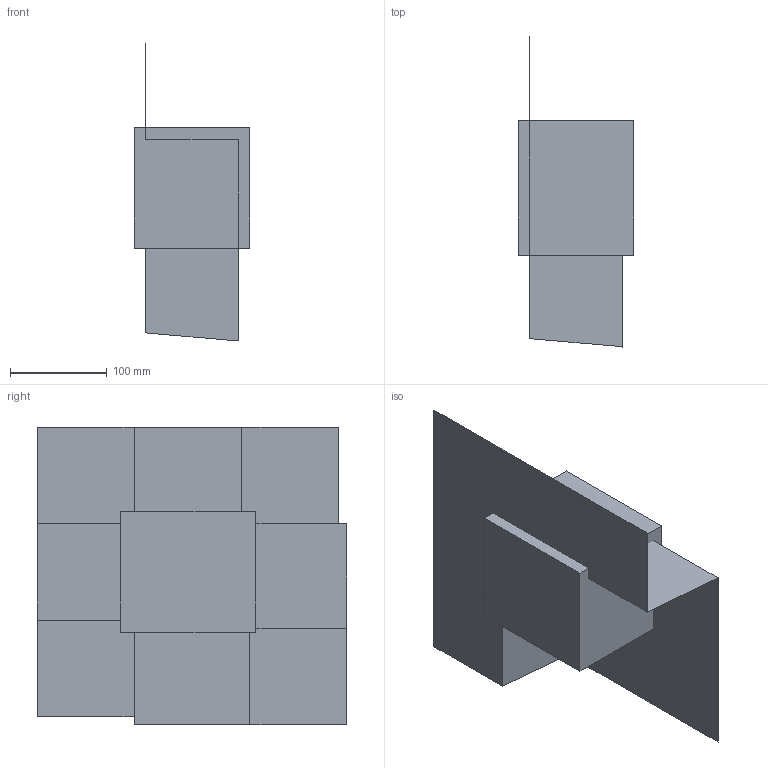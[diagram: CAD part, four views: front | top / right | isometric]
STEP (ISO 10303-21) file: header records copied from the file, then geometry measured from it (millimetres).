
FILE_DESCRIPTION(('CATIA V5 STEP Exchange'),'2;1');
FILE_NAME('C:\_Andres\UNIVERSIDAD\IQS\ASIGNATURAS\DAO\EXF\EXF-15161c\1original\Wand_Domenech_Ej02-moldes_v29.stp','2016-03-04T15:45:47+00:00',('none'),('none'),'CATIA Version 5 Release 20 SP 1 (IN-10)','CATIA V5 STEP AP203','none');
FILE_SCHEMA(('CONFIG_CONTROL_DESIGN'));
Length unit declared in the file: millimetre
Products named in the file (1): Wand_Domenech_Ej02-moldes_v29
Bounding box: 119 x 319.53 x 307.53 mm (x, y, z)
Volume: 4334003.6 mm3; surface area: 427822.4 mm2
Topology: 3 solids, 7 shells, 45 faces, 118 edges, 83 vertices
Faces by surface type: plane 41, cylinder 4
Entity records: 1101 total; most frequent: ORIENTED_EDGE 198, CARTESIAN_POINT 179, DIRECTION 147, EDGE_CURVE 83, VECTOR 73, LINE 73, VERTEX_POINT 56, EDGE_LOOP 49
